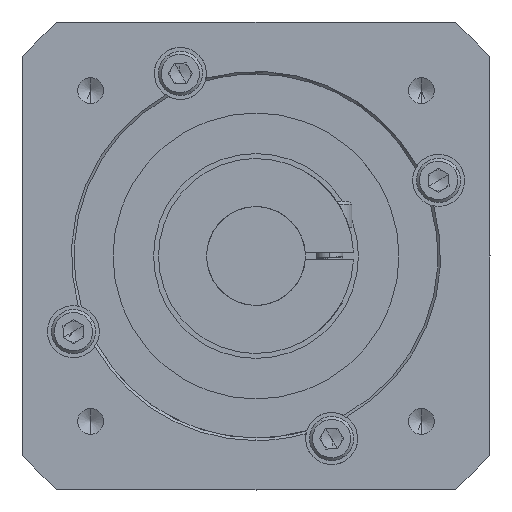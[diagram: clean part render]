
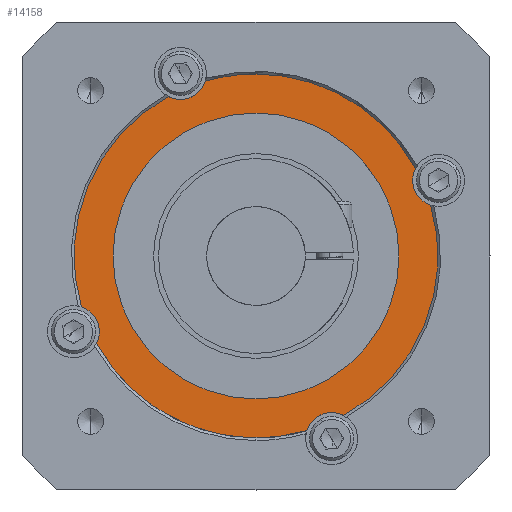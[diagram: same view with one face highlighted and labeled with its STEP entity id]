
A CAD part, front view. The second image highlights one B-rep face of the part: STEP entity #14158.
In plain terms, the highlighted planar face has unit normal (0, -1, 0).
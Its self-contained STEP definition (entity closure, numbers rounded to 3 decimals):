
#1795 = EDGE_CURVE ( 'NONE', #7188, #13864, #7607, .T. ) ;
#4742 = CARTESIAN_POINT ( 'NONE',  ( 0., 6., 35. ) ) ;
#4761 = CARTESIAN_POINT ( 'NONE',  ( 0., 6., -27.5 ) ) ;
#5123 = DIRECTION ( 'NONE',  ( 0., 0., 1. ) ) ;
#5124 = DIRECTION ( 'NONE',  ( 0., 1., 0. ) ) ;
#5125 = AXIS2_PLACEMENT_3D ( 'NONE', #5132, #5124, #5123 ) ;
#5132 = CARTESIAN_POINT ( 'NONE',  ( 0., 6., 0. ) ) ;
#5133 = CIRCLE ( 'NONE', #5125, 35. ) ;
#5528 = CARTESIAN_POINT ( 'NONE',  ( 16.855, 6., -30.674 ) ) ;
#5544 = DIRECTION ( 'NONE',  ( 0., 0., 1. ) ) ;
#5545 = AXIS2_PLACEMENT_3D ( 'NONE', #5551, #5553, #5544 ) ;
#5546 = CIRCLE ( 'NONE', #5545, 27.5 ) ;
#5551 = CARTESIAN_POINT ( 'NONE',  ( 0., 6., 0. ) ) ;
#5553 = DIRECTION ( 'NONE',  ( 0., 1., 0. ) ) ;
#6635 = CARTESIAN_POINT ( 'NONE',  ( -30.674, 6., -16.855 ) ) ;
#7059 = VERTEX_POINT ( 'NONE', #15226 ) ;
#7067 = VERTEX_POINT ( 'NONE', #15320 ) ;
#7102 = EDGE_CURVE ( 'NONE', #7059, #7067, #15393, .T. ) ;
#7110 = VERTEX_POINT ( 'NONE', #15429 ) ;
#7123 = VERTEX_POINT ( 'NONE', #15409 ) ;
#7131 = EDGE_CURVE ( 'NONE', #7123, #7110, #15462, .T. ) ;
#7162 = VERTEX_POINT ( 'NONE', #15513 ) ;
#7188 = VERTEX_POINT ( 'NONE', #15581 ) ;
#7190 = EDGE_CURVE ( 'NONE', #7162, #7188, #15527, .T. ) ;
#7600 = DIRECTION ( 'NONE',  ( 0., 0., 1. ) ) ;
#7601 = DIRECTION ( 'NONE',  ( 0., 1., 0. ) ) ;
#7602 = CARTESIAN_POINT ( 'NONE',  ( 0., 6., 0. ) ) ;
#7603 = AXIS2_PLACEMENT_3D ( 'NONE', #7602, #7601, #7600 ) ;
#7607 = CIRCLE ( 'NONE', #7603, 35. ) ;
#8400 = VERTEX_POINT ( 'NONE', #16654 ) ;
#10391 = DIRECTION ( 'NONE',  ( 0., -1., 0. ) ) ;
#10396 = CARTESIAN_POINT ( 'NONE',  ( 0., 6., 0. ) ) ;
#10409 = CIRCLE ( 'NONE', #10445, 35. ) ;
#10420 = CARTESIAN_POINT ( 'NONE',  ( -14.542, 6., 35.107 ) ) ;
#10424 = AXIS2_PLACEMENT_3D ( 'NONE', #10513, #10512, #10511 ) ;
#10425 = DIRECTION ( 'NONE',  ( 0., 0., -1. ) ) ;
#10426 = DIRECTION ( 'NONE',  ( 0., -1., 0. ) ) ;
#10427 = CARTESIAN_POINT ( 'NONE',  ( 14.542, 6., -35.107 ) ) ;
#10429 = CIRCLE ( 'NONE', #10435, 5. ) ;
#10431 = CARTESIAN_POINT ( 'NONE',  ( -33.608, 6., -9.772 ) ) ;
#10435 = AXIS2_PLACEMENT_3D ( 'NONE', #10427, #10426, #10425 ) ;
#10443 = DIRECTION ( 'NONE',  ( 0., 0., 1. ) ) ;
#10444 = DIRECTION ( 'NONE',  ( 0., 1., 0. ) ) ;
#10445 = AXIS2_PLACEMENT_3D ( 'NONE', #10396, #10444, #10443 ) ;
#10447 = CIRCLE ( 'NONE', #10523, 5. ) ;
#10499 = DIRECTION ( 'NONE',  ( 0., 0., -1. ) ) ;
#10500 = DIRECTION ( 'NONE',  ( 0., -1., 0. ) ) ;
#10501 = CARTESIAN_POINT ( 'NONE',  ( -35.107, 6., -14.542 ) ) ;
#10502 = AXIS2_PLACEMENT_3D ( 'NONE', #10501, #10500, #10499 ) ;
#10505 = DIRECTION ( 'NONE',  ( 0., 0., 1. ) ) ;
#10506 = DIRECTION ( 'NONE',  ( 0., 1., 0. ) ) ;
#10507 = CARTESIAN_POINT ( 'NONE',  ( 0., 6., 0. ) ) ;
#10508 = AXIS2_PLACEMENT_3D ( 'NONE', #10507, #10506, #10505 ) ;
#10509 = CIRCLE ( 'NONE', #10508, 27.5 ) ;
#10511 = DIRECTION ( 'NONE',  ( 0., 0., -1. ) ) ;
#10512 = DIRECTION ( 'NONE',  ( 0., -1., 0. ) ) ;
#10513 = CARTESIAN_POINT ( 'NONE',  ( -35., 6., 0. ) ) ;
#10515 = CIRCLE ( 'NONE', #10502, 5. ) ;
#10517 = PLANE ( 'NONE',  #10424 ) ;
#10518 = FACE_BOUND ( 'NONE', #14129, .T. ) ;
#10519 = FACE_OUTER_BOUND ( 'NONE', #14071, .T. ) ;
#10522 = DIRECTION ( 'NONE',  ( 0., 0., -1. ) ) ;
#10523 = AXIS2_PLACEMENT_3D ( 'NONE', #10420, #10391, #10522 ) ;
#11441 = DIRECTION ( 'NONE',  ( 0., 0., 1. ) ) ;
#11442 = AXIS2_PLACEMENT_3D ( 'NONE', #11446, #11451, #11441 ) ;
#11446 = CARTESIAN_POINT ( 'NONE',  ( 0., 6., 0. ) ) ;
#11451 = DIRECTION ( 'NONE',  ( 0., 1., 0. ) ) ;
#11468 = AXIS2_PLACEMENT_3D ( 'NONE', #11486, #11485, #11484 ) ;
#11472 = CIRCLE ( 'NONE', #11442, 35. ) ;
#11484 = DIRECTION ( 'NONE',  ( 0., 0., 1. ) ) ;
#11485 = DIRECTION ( 'NONE',  ( 0., 1., 0. ) ) ;
#11486 = CARTESIAN_POINT ( 'NONE',  ( 0., 6., 0. ) ) ;
#11500 = CIRCLE ( 'NONE', #11468, 35. ) ;
#11532 = CARTESIAN_POINT ( 'NONE',  ( -9.772, 6., 33.608 ) ) ;
#13097 = VERTEX_POINT ( 'NONE', #4742 ) ;
#13101 = VERTEX_POINT ( 'NONE', #4761 ) ;
#13237 = EDGE_CURVE ( 'NONE', #13097, #7123, #5133, .T. ) ;
#13373 = VERTEX_POINT ( 'NONE', #5528 ) ;
#13418 = EDGE_CURVE ( 'NONE', #13101, #8400, #5546, .T. ) ;
#13864 = VERTEX_POINT ( 'NONE', #6635 ) ;
#14071 = EDGE_LOOP ( 'NONE', ( #14092, #14119, #14113, #14105, #14125, #14128, #14130, #14145, #14122, #14131, #14150 ) ) ;
#14092 = ORIENTED_EDGE ( 'NONE', *, *, #7102, .F. ) ;
#14105 = ORIENTED_EDGE ( 'NONE', *, *, #1795, .F. ) ;
#14113 = ORIENTED_EDGE ( 'NONE', *, *, #14162, .F. ) ;
#14116 = EDGE_CURVE ( 'NONE', #14123, #7059, #10409, .T. ) ;
#14119 = ORIENTED_EDGE ( 'NONE', *, *, #14116, .F. ) ;
#14122 = ORIENTED_EDGE ( 'NONE', *, *, #13237, .F. ) ;
#14123 = VERTEX_POINT ( 'NONE', #10431 ) ;
#14125 = ORIENTED_EDGE ( 'NONE', *, *, #7190, .F. ) ;
#14126 = EDGE_CURVE ( 'NONE', #13373, #7162, #10429, .T. ) ;
#14128 = ORIENTED_EDGE ( 'NONE', *, *, #14126, .F. ) ;
#14129 = EDGE_LOOP ( 'NONE', ( #14147, #14161 ) ) ;
#14130 = ORIENTED_EDGE ( 'NONE', *, *, #14737, .F. ) ;
#14131 = ORIENTED_EDGE ( 'NONE', *, *, #14831, .F. ) ;
#14145 = ORIENTED_EDGE ( 'NONE', *, *, #7131, .F. ) ;
#14146 = EDGE_CURVE ( 'NONE', #7067, #15325, #10447, .T. ) ;
#14147 = ORIENTED_EDGE ( 'NONE', *, *, #14159, .T. ) ;
#14150 = ORIENTED_EDGE ( 'NONE', *, *, #14146, .F. ) ;
#14158 = ADVANCED_FACE ( 'NONE', ( #10519, #10518 ), #10517, .T. ) ;
#14159 = EDGE_CURVE ( 'NONE', #8400, #13101, #10509, .T. ) ;
#14161 = ORIENTED_EDGE ( 'NONE', *, *, #13418, .T. ) ;
#14162 = EDGE_CURVE ( 'NONE', #13864, #14123, #10515, .T. ) ;
#14737 = EDGE_CURVE ( 'NONE', #7110, #13373, #11472, .T. ) ;
#14831 = EDGE_CURVE ( 'NONE', #15325, #13097, #11500, .T. ) ;
#15226 = CARTESIAN_POINT ( 'NONE',  ( -16.855, 6., 30.674 ) ) ;
#15320 = CARTESIAN_POINT ( 'NONE',  ( -14.542, 6., 30.107 ) ) ;
#15325 = VERTEX_POINT ( 'NONE', #11532 ) ;
#15368 = DIRECTION ( 'NONE',  ( 0., 0., -1. ) ) ;
#15369 = DIRECTION ( 'NONE',  ( 0., -1., 0. ) ) ;
#15372 = CARTESIAN_POINT ( 'NONE',  ( -14.542, 6., 35.107 ) ) ;
#15378 = AXIS2_PLACEMENT_3D ( 'NONE', #15372, #15369, #15368 ) ;
#15393 = CIRCLE ( 'NONE', #15378, 5. ) ;
#15409 = CARTESIAN_POINT ( 'NONE',  ( 30.674, 6., 16.855 ) ) ;
#15429 = CARTESIAN_POINT ( 'NONE',  ( 33.608, 6., 9.772 ) ) ;
#15444 = DIRECTION ( 'NONE',  ( 0., 0., -1. ) ) ;
#15445 = DIRECTION ( 'NONE',  ( 0., -1., 0. ) ) ;
#15446 = CARTESIAN_POINT ( 'NONE',  ( 35.107, 6., 14.542 ) ) ;
#15460 = AXIS2_PLACEMENT_3D ( 'NONE', #15446, #15445, #15444 ) ;
#15462 = CIRCLE ( 'NONE', #15460, 5. ) ;
#15513 = CARTESIAN_POINT ( 'NONE',  ( 14.542, 6., -30.107 ) ) ;
#15527 = CIRCLE ( 'NONE', #15569, 5. ) ;
#15567 = DIRECTION ( 'NONE',  ( 0., 0., -1. ) ) ;
#15568 = DIRECTION ( 'NONE',  ( 0., -1., 0. ) ) ;
#15569 = AXIS2_PLACEMENT_3D ( 'NONE', #15574, #15568, #15567 ) ;
#15574 = CARTESIAN_POINT ( 'NONE',  ( 14.542, 6., -35.107 ) ) ;
#15581 = CARTESIAN_POINT ( 'NONE',  ( 9.772, 6., -33.608 ) ) ;
#16654 = CARTESIAN_POINT ( 'NONE',  ( 0., 6., 27.5 ) ) ;
